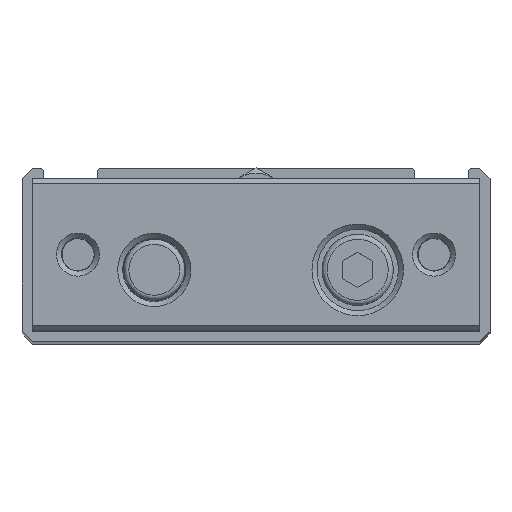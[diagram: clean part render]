
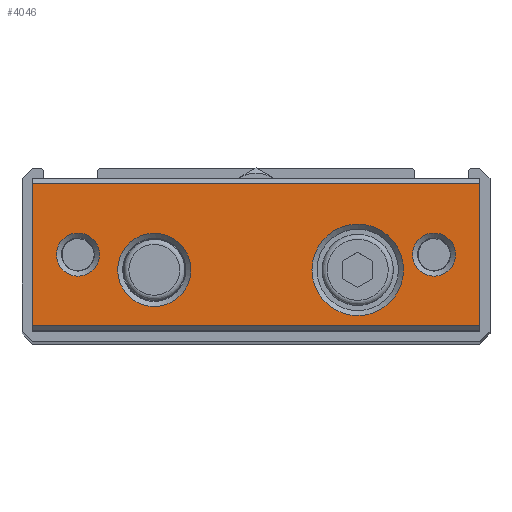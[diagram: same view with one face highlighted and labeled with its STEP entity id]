
A CAD part, top view. The second image highlights one B-rep face of the part: STEP entity #4046.
In plain terms, the highlighted planar face has unit normal (0, 0, 1).
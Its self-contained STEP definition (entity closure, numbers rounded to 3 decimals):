
#3142=CARTESIAN_POINT('',(22.0,7.0,174.));
#3143=VERTEX_POINT('',#3142);
#3151=CARTESIAN_POINT('',(-22.0,7.0,174.));
#3152=VERTEX_POINT('',#3151);
#3159=CARTESIAN_POINT('',(-22.0,7.0,174.));
#3160=DIRECTION('',(1.0,0.0,0.0));
#3161=VECTOR('',#3160,44.0);
#3162=LINE('',#3159,#3161);
#3163=EDGE_CURVE('',#3152,#3143,#3162,.T.);
#3239=CARTESIAN_POINT('',(-22.0,-7.0,174.));
#3240=VERTEX_POINT('',#3239);
#3247=CARTESIAN_POINT('',(-22.0,7.0,174.));
#3248=DIRECTION('',(0.0,-1.0,0.0));
#3249=VECTOR('',#3248,14.0);
#3250=LINE('',#3247,#3249);
#3251=EDGE_CURVE('',#3152,#3240,#3250,.T.);
#3403=CARTESIAN_POINT('',(22.0,-7.0,174.));
#3404=VERTEX_POINT('',#3403);
#3405=CARTESIAN_POINT('',(22.0,-7.0,174.));
#3406=DIRECTION('',(0.0,1.0,0.0));
#3407=VECTOR('',#3406,14.0);
#3408=LINE('',#3405,#3407);
#3409=EDGE_CURVE('',#3404,#3143,#3408,.T.);
#3982=CARTESIAN_POINT('',(14.5,-1.5,174.));
#3983=VERTEX_POINT('',#3982);
#3984=CARTESIAN_POINT('',(10.0,-1.5,174.));
#3985=DIRECTION('',(0.0,0.0,1.0));
#3986=DIRECTION('',(-1.0,0.0,0.0));
#3987=AXIS2_PLACEMENT_3D('',#3984,#3985,#3986);
#3988=CIRCLE('',#3987,4.5);
#3989=EDGE_CURVE('',#3983,#3983,#3988,.T.);
#3994=CARTESIAN_POINT('',(0.0,-7.5,174.));
#3995=DIRECTION('',(0.0,0.0,1.0));
#3996=DIRECTION('',(1.0,0.0,0.0));
#3997=AXIS2_PLACEMENT_3D('',#3994,#3995,#3996);
#3998=PLANE('',#3997);
#3999=ORIENTED_EDGE('',*,*,#3163,.F.);
#4000=ORIENTED_EDGE('',*,*,#3251,.T.);
#4001=CARTESIAN_POINT('',(22.0,-7.0,174.));
#4002=DIRECTION('',(-1.0,0.0,0.0));
#4003=VECTOR('',#4002,44.0);
#4004=LINE('',#4001,#4003);
#4005=EDGE_CURVE('',#3404,#3240,#4004,.T.);
#4006=ORIENTED_EDGE('',*,*,#4005,.F.);
#4007=ORIENTED_EDGE('',*,*,#3409,.T.);
#4008=EDGE_LOOP('',(#3999,#4000,#4006,#4007));
#4009=FACE_OUTER_BOUND('',#4008,.T.);
#4010=CARTESIAN_POINT('',(-6.4,-1.5,174.));
#4011=VERTEX_POINT('',#4010);
#4012=CARTESIAN_POINT('',(-10.0,-1.5,174.));
#4013=DIRECTION('',(0.0,0.0,1.0));
#4014=DIRECTION('',(-1.0,0.0,0.0));
#4015=AXIS2_PLACEMENT_3D('',#4012,#4013,#4014);
#4016=CIRCLE('',#4015,3.6);
#4017=EDGE_CURVE('',#4011,#4011,#4016,.T.);
#4018=ORIENTED_EDGE('',*,*,#4017,.F.);
#4019=EDGE_LOOP('',(#4018));
#4020=FACE_BOUND('',#4019,.T.);
#4021=CARTESIAN_POINT('',(19.621,0.,174.));
#4022=VERTEX_POINT('',#4021);
#4023=CARTESIAN_POINT('',(17.5,0.0,174.));
#4024=DIRECTION('',(0.0,0.0,1.0));
#4025=DIRECTION('',(-1.0,0.0,0.0));
#4026=AXIS2_PLACEMENT_3D('',#4023,#4024,#4025);
#4027=CIRCLE('',#4026,2.121);
#4028=EDGE_CURVE('',#4022,#4022,#4027,.T.);
#4029=ORIENTED_EDGE('',*,*,#4028,.F.);
#4030=EDGE_LOOP('',(#4029));
#4031=FACE_BOUND('',#4030,.T.);
#4032=CARTESIAN_POINT('',(-15.379,0.,174.));
#4033=VERTEX_POINT('',#4032);
#4034=CARTESIAN_POINT('',(-17.5,0.0,174.));
#4035=DIRECTION('',(0.0,0.0,1.0));
#4036=DIRECTION('',(-1.0,0.0,0.0));
#4037=AXIS2_PLACEMENT_3D('',#4034,#4035,#4036);
#4038=CIRCLE('',#4037,2.121);
#4039=EDGE_CURVE('',#4033,#4033,#4038,.T.);
#4040=ORIENTED_EDGE('',*,*,#4039,.F.);
#4041=EDGE_LOOP('',(#4040));
#4042=FACE_BOUND('',#4041,.T.);
#4043=ORIENTED_EDGE('',*,*,#3989,.F.);
#4044=EDGE_LOOP('',(#4043));
#4045=FACE_BOUND('',#4044,.T.);
#4046=ADVANCED_FACE('',(#4009,#4020,#4031,#4042,#4045),#3998,.T.);
